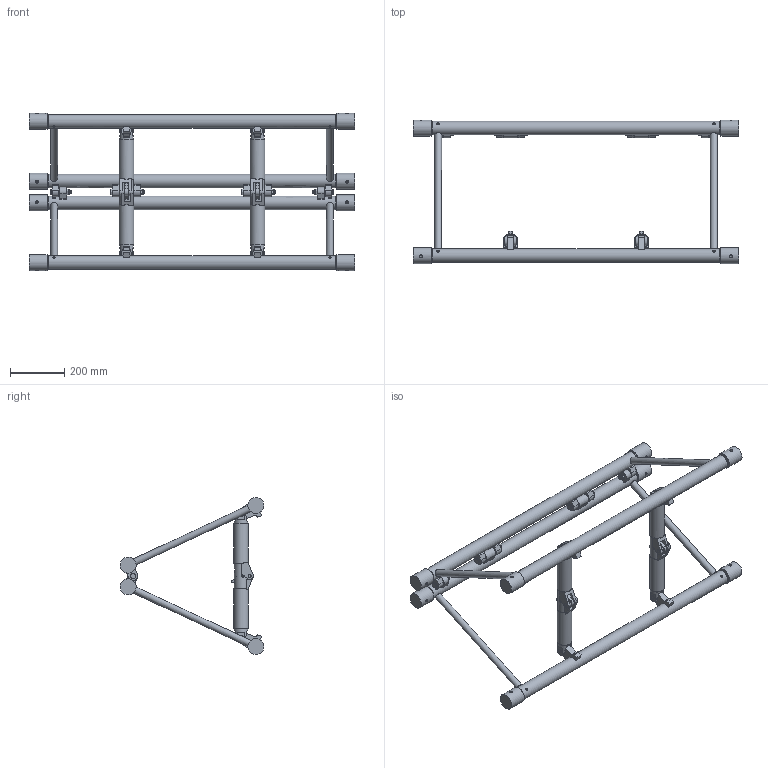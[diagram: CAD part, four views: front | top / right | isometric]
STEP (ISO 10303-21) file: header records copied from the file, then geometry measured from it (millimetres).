
FILE_DESCRIPTION(/* description */ (''),/* implementation_level */ '2;1');
FILE_NAME(/* name */ 'M:\Symbolen_NIEUW\STP\52-er truss\S52F\S52F-L120_111110084.stp',/* time_stamp */ '2017-11-10T14:09:12+01:00',/* author */ ('Kees'),/* organization */ (''),/* preprocessor_version */ 'ST-DEVELOPER v16.13',/* originating_system */ 'Autodesk Inventor 2018',/* authorisation */ '');
FILE_SCHEMA (('AUTOMOTIVE_DESIGN { 1 0 10303 214 3 1 1 }'));
Length unit declared in the file: millimetre
Products named in the file (1): 260008505
Bounding box: 1200 x 528.69 x 578.8 mm (x, y, z)
Volume: 13238157.6 mm3; surface area: 1306932.1 mm2
Topology: 9 solids, 9 shells, 684 faces, 1712 edges, 1120 vertices
Faces by surface type: plane 434, cylinder 174, cone 76
Full cylindrical faces by diameter (mm): 10 x8, 12 x16, 12.5 x10, 12.8 x8, 13 x14, 17.4 x8, 24 x6, 25 x4, 50 x8, 54 x4, 58.8 x8
Entity records: 21714 total; most frequent: CARTESIAN_POINT 5235, DIRECTION 3236, ORIENTED_EDGE 3108, EDGE_CURVE 1554, AXIS2_PLACEMENT_3D 1213, VERTEX_POINT 1104, EDGE_LOOP 982, LINE 810
